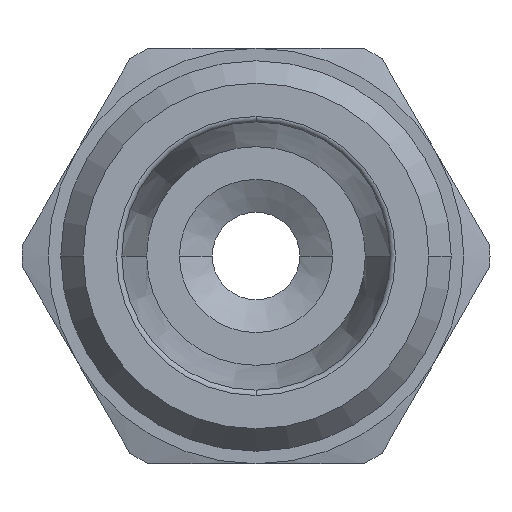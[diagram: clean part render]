
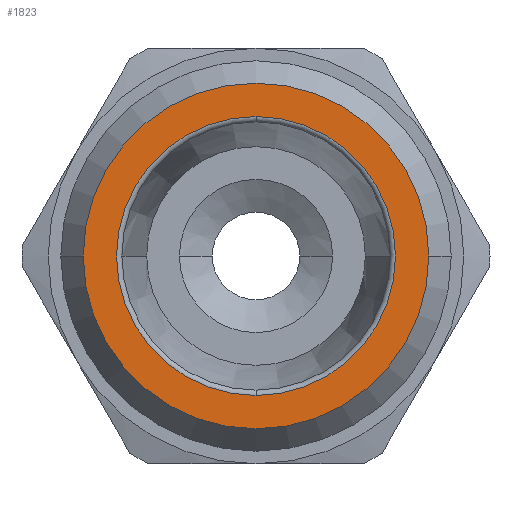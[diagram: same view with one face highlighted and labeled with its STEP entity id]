
A CAD part, left-side view. The second image highlights one B-rep face of the part: STEP entity #1823.
In plain terms, the highlighted planar face has unit normal (-1, 0, 0) as drawn and (0, 0, 1) by its records, which use the part's own axes.
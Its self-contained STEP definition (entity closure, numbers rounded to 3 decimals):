
#950=CARTESIAN_POINT('',(0.,-7.9,16.0));
#951=VERTEX_POINT('',#950);
#958=CARTESIAN_POINT('',(0.,7.9,16.));
#959=VERTEX_POINT('',#958);
#960=CARTESIAN_POINT('',(0.,0.,16.));
#961=DIRECTION('',(0.0,0.0,-1.0));
#962=DIRECTION('',(0.0,-1.0,0.0));
#963=AXIS2_PLACEMENT_3D('',#960,#961,#962);
#964=CIRCLE('',#963,7.9);
#965=EDGE_CURVE('',#951,#959,#964,.T.);
#1023=CARTESIAN_POINT('',(6.377,0.,16.0));
#1024=VERTEX_POINT('',#1023);
#1042=CARTESIAN_POINT('',(-6.377,0.,16.0));
#1043=VERTEX_POINT('',#1042);
#1051=CARTESIAN_POINT('',(0.,-6.377,16.0));
#1052=VERTEX_POINT('',#1051);
#1053=CARTESIAN_POINT('',(0.,0.,16.0));
#1054=DIRECTION('',(0.0,0.0,1.0));
#1055=DIRECTION('',(0.0,1.0,0.0));
#1056=AXIS2_PLACEMENT_3D('',#1053,#1054,#1055);
#1057=CIRCLE('',#1056,6.377);
#1058=EDGE_CURVE('',#1043,#1052,#1057,.T.);
#1060=CARTESIAN_POINT('',(0.,0.,16.0));
#1061=DIRECTION('',(0.0,0.0,1.0));
#1062=DIRECTION('',(0.0,1.0,0.0));
#1063=AXIS2_PLACEMENT_3D('',#1060,#1061,#1062);
#1064=CIRCLE('',#1063,6.377);
#1065=EDGE_CURVE('',#1052,#1024,#1064,.T.);
#1784=CARTESIAN_POINT('',(0.,0.,16.0));
#1785=DIRECTION('',(0.0,0.0,1.0));
#1786=DIRECTION('',(0.0,1.0,0.0));
#1787=AXIS2_PLACEMENT_3D('',#1784,#1785,#1786);
#1788=CIRCLE('',#1787,6.377);
#1789=EDGE_CURVE('',#1024,#1043,#1788,.T.);
#1803=CARTESIAN_POINT('',(0.,-7.038,16.0));
#1804=DIRECTION('',(0.0,0.0,1.0));
#1805=DIRECTION('',(-1.0,0.0,0.0));
#1806=AXIS2_PLACEMENT_3D('',#1803,#1804,#1805);
#1807=PLANE('',#1806);
#1808=ORIENTED_EDGE('',*,*,#965,.F.);
#1809=CARTESIAN_POINT('',(0.,0.,16.));
#1810=DIRECTION('',(0.0,0.0,-1.0));
#1811=DIRECTION('',(0.0,-1.0,0.0));
#1812=AXIS2_PLACEMENT_3D('',#1809,#1810,#1811);
#1813=CIRCLE('',#1812,7.9);
#1814=EDGE_CURVE('',#959,#951,#1813,.T.);
#1815=ORIENTED_EDGE('',*,*,#1814,.F.);
#1816=EDGE_LOOP('',(#1808,#1815));
#1817=FACE_OUTER_BOUND('',#1816,.T.);
#1818=ORIENTED_EDGE('',*,*,#1065,.F.);
#1819=ORIENTED_EDGE('',*,*,#1058,.F.);
#1820=ORIENTED_EDGE('',*,*,#1789,.F.);
#1821=EDGE_LOOP('',(#1818,#1819,#1820));
#1822=FACE_BOUND('',#1821,.T.);
#1823=ADVANCED_FACE('',(#1817,#1822),#1807,.T.);
